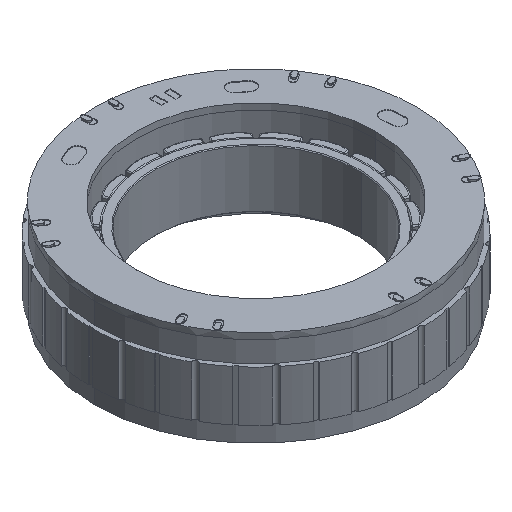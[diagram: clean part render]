
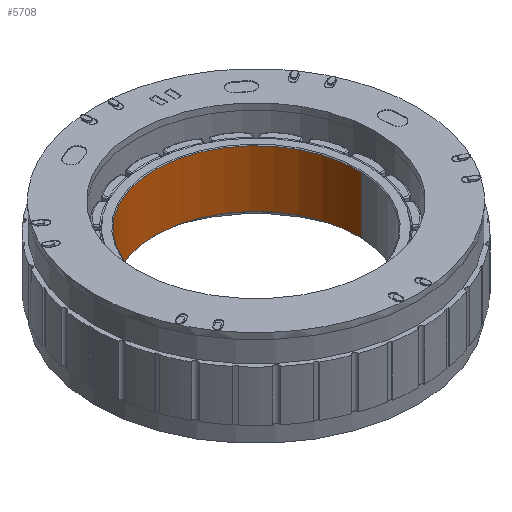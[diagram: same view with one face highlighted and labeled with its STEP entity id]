
A CAD part, isometric view. The second image highlights one B-rep face of the part: STEP entity #5708.
In plain terms, the highlighted cylindrical face has radius 26 mm (diameter 52 mm), a partial arc.
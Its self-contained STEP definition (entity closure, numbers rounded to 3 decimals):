
#506 = LINE ( 'NONE', #2476, #8208 ) ;
#694 = CARTESIAN_POINT ( 'NONE',  ( 0., 0., 14. ) ) ;
#1120 = VERTEX_POINT ( 'NONE', #18538 ) ;
#2055 = VERTEX_POINT ( 'NONE', #4693 ) ;
#2065 = DIRECTION ( 'NONE',  ( 0., 0., -1. ) ) ;
#2089 = EDGE_CURVE ( 'NONE', #2422, #1120, #10740, .T. ) ;
#2422 = VERTEX_POINT ( 'NONE', #6301 ) ;
#2476 = CARTESIAN_POINT ( 'NONE',  ( -25.978, 1.076, 14. ) ) ;
#4135 = AXIS2_PLACEMENT_3D ( 'NONE', #12911, #2065, #16548 ) ;
#4299 = LINE ( 'NONE', #6061, #9871 ) ;
#4693 = CARTESIAN_POINT ( 'NONE',  ( 25.978, -1.076, -0.8 ) ) ;
#5708 = ADVANCED_FACE ( 'NONE', ( #14818 ), #9570, .F. ) ;
#6045 = EDGE_LOOP ( 'NONE', ( #6759, #10685, #17307, #18225 ) ) ;
#6061 = CARTESIAN_POINT ( 'NONE',  ( 25.978, -1.076, 14. ) ) ;
#6301 = CARTESIAN_POINT ( 'NONE',  ( 25.978, -1.076, 13.8 ) ) ;
#6660 = DIRECTION ( 'NONE',  ( 0., 0., 1. ) ) ;
#6759 = ORIENTED_EDGE ( 'NONE', *, *, #22290, .F. ) ;
#7546 = EDGE_CURVE ( 'NONE', #1120, #10764, #506, .T. ) ;
#8208 = VECTOR ( 'NONE', #19987, 1000. ) ;
#9346 = CIRCLE ( 'NONE', #4135, 26. ) ;
#9570 = CYLINDRICAL_SURFACE ( 'NONE', #10170, 26. ) ;
#9685 = DIRECTION ( 'NONE',  ( -0.999, 0.041, 0. ) ) ;
#9871 = VECTOR ( 'NONE', #13165, 1000. ) ;
#10170 = AXIS2_PLACEMENT_3D ( 'NONE', #694, #22282, #9685 ) ;
#10685 = ORIENTED_EDGE ( 'NONE', *, *, #2089, .T. ) ;
#10740 = CIRCLE ( 'NONE', #11136, 26. ) ;
#10764 = VERTEX_POINT ( 'NONE', #12528 ) ;
#11136 = AXIS2_PLACEMENT_3D ( 'NONE', #17396, #6660, #21127 ) ;
#12126 = EDGE_CURVE ( 'NONE', #10764, #2055, #9346, .T. ) ;
#12528 = CARTESIAN_POINT ( 'NONE',  ( -25.978, 1.076, -0.8 ) ) ;
#12911 = CARTESIAN_POINT ( 'NONE',  ( 0., 0., -0.8 ) ) ;
#13165 = DIRECTION ( 'NONE',  ( 0., 0., -1. ) ) ;
#14818 = FACE_OUTER_BOUND ( 'NONE', #6045, .T. ) ;
#16548 = DIRECTION ( 'NONE',  ( 0.999, -0.041, 0. ) ) ;
#17307 = ORIENTED_EDGE ( 'NONE', *, *, #7546, .T. ) ;
#17396 = CARTESIAN_POINT ( 'NONE',  ( 0., 0., 13.8 ) ) ;
#18225 = ORIENTED_EDGE ( 'NONE', *, *, #12126, .T. ) ;
#18538 = CARTESIAN_POINT ( 'NONE',  ( -25.978, 1.076, 13.8 ) ) ;
#19987 = DIRECTION ( 'NONE',  ( 0., 0., -1. ) ) ;
#21127 = DIRECTION ( 'NONE',  ( 0.999, -0.041, 0. ) ) ;
#22282 = DIRECTION ( 'NONE',  ( 0., 0., -1. ) ) ;
#22290 = EDGE_CURVE ( 'NONE', #2422, #2055, #4299, .T. ) ;
